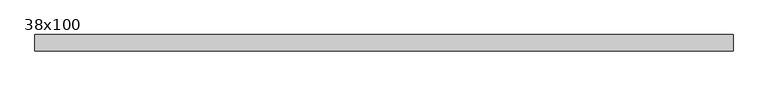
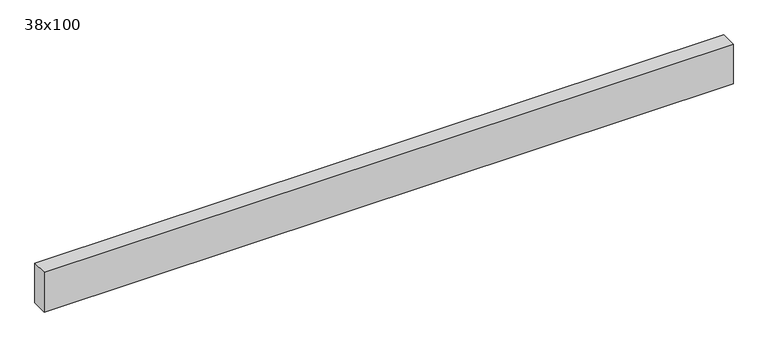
"""IFC4 building model written with IfcOpenShell, lengths in millimetres: beam geometry, Poutre - Bois de construction de dimensions courantes : 38x100."""

from ifc_helpers import new_model, si_unit, frame, origin, place, context, project, spatial, polyline, outline, extrude, source, transform, mapped, element, save


def beam_38x100_9d42c8b1(model_context):
    return source(origin(), model_context, "Body", "SweptSolid", [
        extrude(outline(polyline([(788.5, 19.05), (788.5, -19.05), (-849.5, -19.05), (-849.5, 19.05), (788.5, 19.05)])), frame((0.0, 0.0, -50.0), z_axis=(0.0, 0.0, 1.0), x_axis=(1.0, 0.0, 0.0)), (0.0, 0.0, 1.0), 100.0),
    ])


if __name__ == "__main__":
    model = new_model("IFC4")
    model_context = context("Model", 3, world=origin())
    ifc_project = project(units=[si_unit("LENGTHUNIT", "METRE", prefix="MILLI")], contexts=[model_context])
    site = spatial("IfcSite", under=ifc_project)
    building = spatial("IfcBuilding", under=site)
    placement = place(None, origin())
    beam_38x100_shape = beam_38x100_9d42c8b1(model_context)
    element("IfcBeam", 1, ObjectType="Poutre - Bois de construction de dimensions courantes : 38x100", at=placement, inside=building, context=model_context, shape_type="MappedRepresentation", body=[
        mapped(beam_38x100_shape, transform((0.0, 0.0, 0.0), x_axis=(1.0, 0.0, 0.0), y_axis=(0.0, 1.0, 0.0), z_axis=(0.0, 0.0, 1.0))),
    ])
    save(model, "model.ifc")
